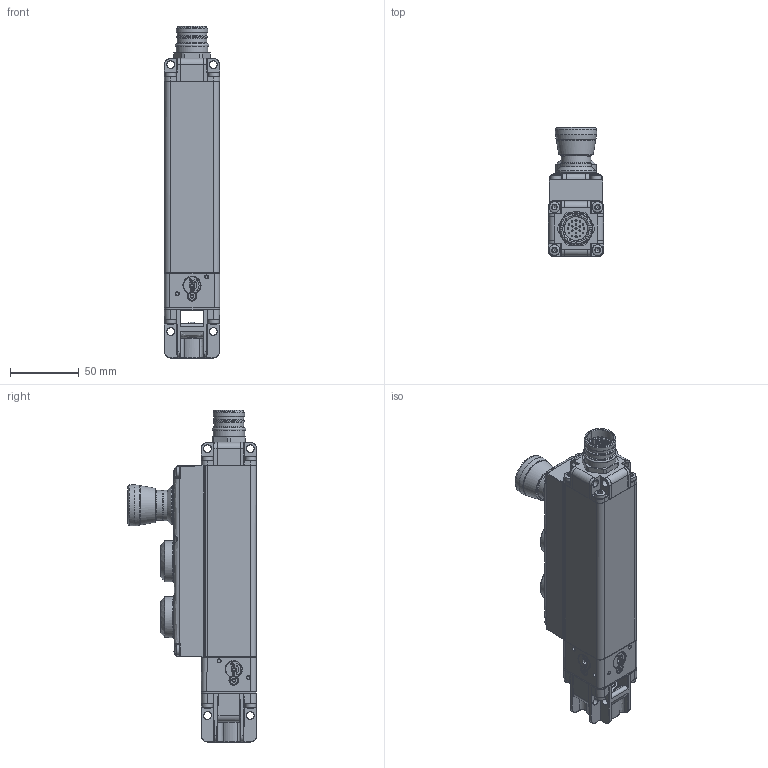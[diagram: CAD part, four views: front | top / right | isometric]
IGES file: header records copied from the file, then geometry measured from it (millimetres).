
Global section: file name: 2038009_A_PSENmg1-A-xxxxx-Fxxx-Ux-U; native system: Autodesk Inventor 2024; preprocessor: unknown; author: prim; date: 20250815.112445; units: millimetre
Bounding box: 40 x 93.5 x 240.7 mm (x, y, z)
Volume: 446871.2 mm3; surface area: 65676 mm2
Topology: 1 solids, 1 shells, 1936 faces, 5016 edges, 3110 vertices
Faces by surface type: bspline 1936
